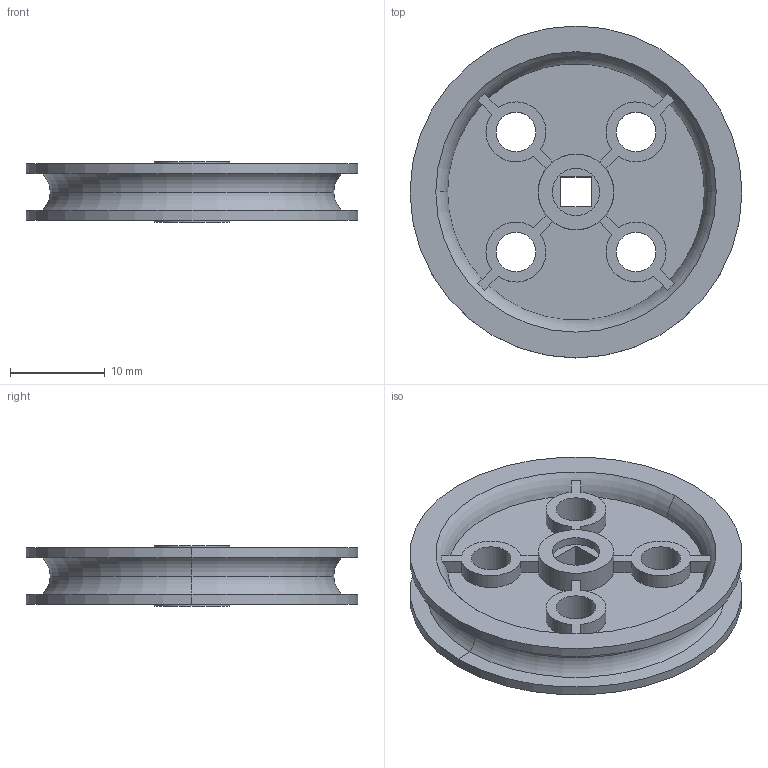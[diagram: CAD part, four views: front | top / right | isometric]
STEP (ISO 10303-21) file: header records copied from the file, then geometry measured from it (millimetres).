
FILE_DESCRIPTION (( 'STEP AP214' ), '1' );
FILE_NAME ('228-2500-165.STEP', '2021-02-18T19:56:56', ( '' ), ( '' ), 'SwSTEP 2.0', 'SolidWorks 2019', '' );
FILE_SCHEMA (( 'AUTOMOTIVE_DESIGN' ));
Length unit declared in the file: millimetre
Products named in the file (1): 228-2500-165
Bounding box: 35.1 x 35.1 x 6.35 mm (x, y, z)
Volume: 2443.8 mm3; surface area: 3771.4 mm2
Topology: 1 solids, 1 shells, 114 faces, 314 edges, 206 vertices
Faces by surface type: plane 58, cylinder 44, torus 8, cone 4
Entity records: 3782 total; most frequent: CARTESIAN_POINT 715, DIRECTION 670, ORIENTED_EDGE 628, EDGE_CURVE 314, AXIS2_PLACEMENT_3D 257, VERTEX_POINT 206, VECTOR 156, LINE 156
